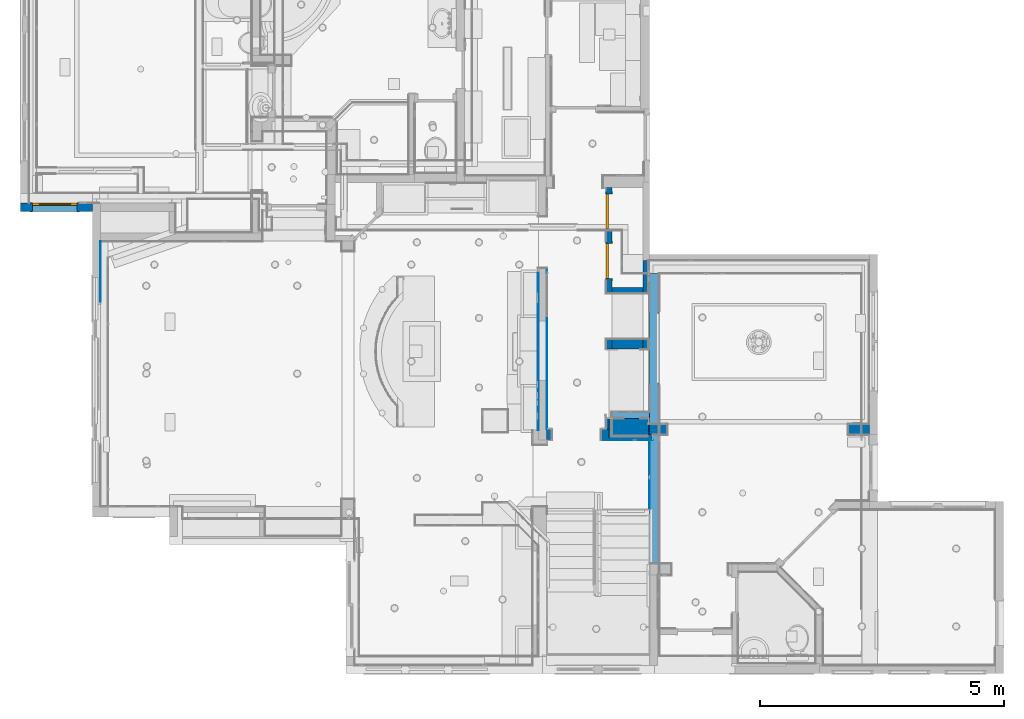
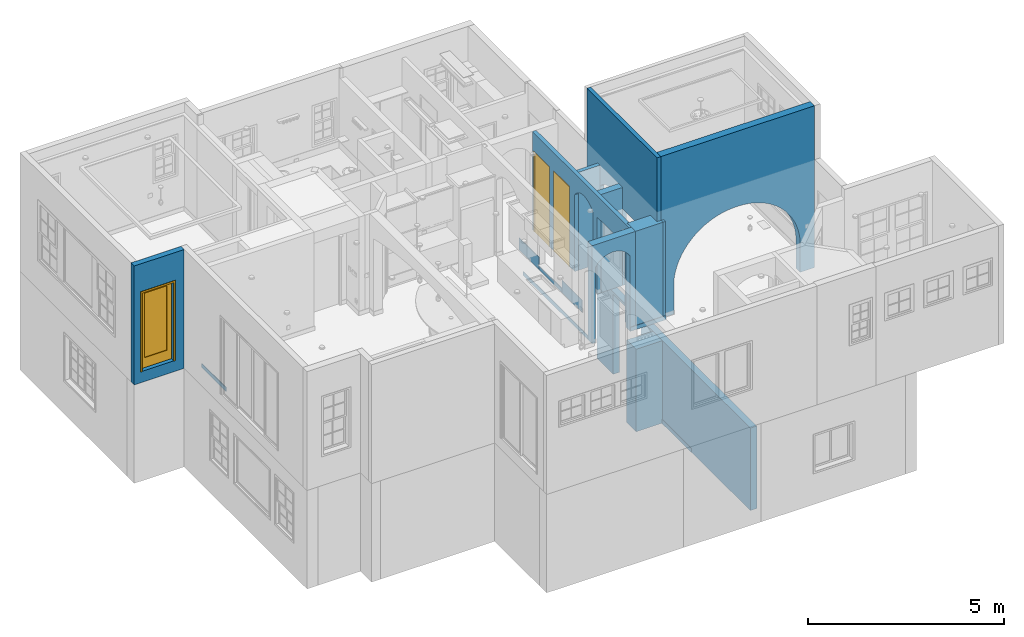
# One storey, part 7 of 81: 18 walls, 3 doors, 11 openings.
"""IFC2X3 building model written with IfcOpenShell, lengths in feet."""

from ifc_helpers import new_model, entity, si_unit, converted_unit, derived_unit, direction, frame, frame_2d, origin, origin_2d_with_axis, place, context, subcontext, project, spatial, polyline, circle_curve, parameter, trimmed, segment, composite_curve, rectangle, outline, extrude, clip, bounded_halfspace, source, transform, mapped, material, material_list, layer, layer_set, layer_usage, type_object, type_shapes, element, fill, save


model = new_model("IFC2X3")

# Units and contexts
model_context = context("Model", 3, precision=0.0001, world=origin(), true_north=direction((6.12303176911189e-17, 1.0)))
body_context = subcontext(model_context, "Body", "Model", "MODEL_VIEW")
ifc_project = project(units=[converted_unit("LENGTHUNIT", "FOOT", entity("IfcRatioMeasure", 0.3048), si_unit("LENGTHUNIT", "METRE"), dimensions=[1, 0, 0, 0, 0, 0, 0]), converted_unit("AREAUNIT", "SQUARE FOOT", entity("IfcRatioMeasure", 0.09290304), si_unit("AREAUNIT", "SQUARE_METRE"), dimensions=[2, 0, 0, 0, 0, 0, 0]), converted_unit("VOLUMEUNIT", "CUBIC FOOT", entity("IfcRatioMeasure", 0.028316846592), si_unit("VOLUMEUNIT", "CUBIC_METRE"), dimensions=[3, 0, 0, 0, 0, 0, 0]), converted_unit("PLANEANGLEUNIT", "DEGREE", entity("IfcRatioMeasure", 0.0174532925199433), si_unit("PLANEANGLEUNIT", "RADIAN"), dimensions=[0, 0, 0, 0, 0, 0, 0]), si_unit("MASSUNIT", "GRAM", prefix="KILO"), derived_unit("MASSDENSITYUNIT", [(si_unit("MASSUNIT", "GRAM", prefix="KILO"), 1), (si_unit("LENGTHUNIT", "METRE"), -3)]), derived_unit("MOMENTOFINERTIAUNIT", [(si_unit("LENGTHUNIT", "METRE"), 4)]), si_unit("TIMEUNIT", "SECOND"), si_unit("FREQUENCYUNIT", "HERTZ"), si_unit("THERMODYNAMICTEMPERATUREUNIT", "DEGREE_CELSIUS"), derived_unit("THERMALTRANSMITTANCEUNIT", [(si_unit("MASSUNIT", "GRAM", prefix="KILO"), 1), (si_unit("THERMODYNAMICTEMPERATUREUNIT", "KELVIN"), -1), (si_unit("TIMEUNIT", "SECOND"), -3)]), derived_unit("VOLUMETRICFLOWRATEUNIT", [(si_unit("LENGTHUNIT", "METRE"), 3), (si_unit("TIMEUNIT", "SECOND"), -1)]), si_unit("ELECTRICCURRENTUNIT", "AMPERE"), si_unit("ELECTRICVOLTAGEUNIT", "VOLT"), si_unit("POWERUNIT", "WATT"), si_unit("FORCEUNIT", "NEWTON"), si_unit("ILLUMINANCEUNIT", "LUX"), si_unit("LUMINOUSFLUXUNIT", "LUMEN"), si_unit("LUMINOUSINTENSITYUNIT", "CANDELA"), derived_unit("USERDEFINED", [(si_unit("MASSUNIT", "GRAM", prefix="KILO"), -1), (si_unit("LENGTHUNIT", "METRE"), -2), (si_unit("TIMEUNIT", "SECOND"), 3), (si_unit("LUMINOUSFLUXUNIT", "LUMEN"), 1)]), derived_unit("LINEARVELOCITYUNIT", [(si_unit("LENGTHUNIT", "METRE"), 1), (si_unit("TIMEUNIT", "SECOND"), -1)]), si_unit("PRESSUREUNIT", "PASCAL"), derived_unit("USERDEFINED", [(si_unit("LENGTHUNIT", "METRE"), -2), (si_unit("MASSUNIT", "GRAM", prefix="KILO"), 1), (si_unit("TIMEUNIT", "SECOND"), -2)]), derived_unit("LINEARFORCEUNIT", [(si_unit("MASSUNIT", "GRAM", prefix="KILO"), 1), (si_unit("LENGTHUNIT", "METRE"), 1), (si_unit("TIMEUNIT", "SECOND"), -2), (si_unit("LENGTHUNIT", "METRE"), -1)]), derived_unit("PLANARFORCEUNIT", [(si_unit("MASSUNIT", "GRAM", prefix="KILO"), 1), (si_unit("LENGTHUNIT", "METRE"), 1), (si_unit("TIMEUNIT", "SECOND"), -2), (si_unit("LENGTHUNIT", "METRE"), -2)])], contexts=[model_context])

# Site, building, storey
site_placement = place(None, origin())
site = spatial("IfcSite", under=ifc_project, at=site_placement, Name="Default", CompositionType="ELEMENT")
building_placement = place(site_placement, origin())
building = spatial("IfcBuilding", under=site, at=building_placement, CompositionType="ELEMENT")
storey_placement = place(building_placement, origin())
storey = spatial("IfcBuildingStorey", under=building, at=storey_placement, Name="First floor", CompositionType="ELEMENT", Elevation=0.0)

# Wall, opening, door
ifc_material_1 = material(Name="Default New Material")
ifc_layer_1 = layer(ifc_material_1, 0.541666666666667)
ifc_layer_set_1 = layer_set([ifc_layer_1], Name="Basic Wall:Wall_6.5\"")
ifc_layer_usage_1 = layer_usage(ifc_layer_set_1, "AXIS2", "NEGATIVE", 0.270833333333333)
wall_type_1 = type_object("IfcWallType", Name="Basic Wall:Wall_6.5\"", PredefinedType="STANDARD", material=ifc_layer_set_1)
wall_1_placement = place(storey_placement, frame((-17.0416666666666, 31.3125, 9.54166666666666), z_axis=(0.0, 0.0, 1.0), x_axis=(-1.0, 0.0, 0.0)))
wall_1 = element("IfcWallStandardCase", 1, at=wall_1_placement, inside=storey, type_object=wall_type_1, material=ifc_layer_usage_1, Name="Basic Wall:Wall_6.5\"", ObjectType="Basic Wall:Wall_6.5\"", context=body_context, shape_type="SweptSolid", body=[
    extrude(rectangle(XDim=4.81250000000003, YDim=0.541666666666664, at=frame_2d((2.40625000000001, -8.88178419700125e-16), x_axis=(-1.0, 0.0))), origin(), (0.0, 0.0, 1.0), 12.125),
])
opening_1_placement = place(wall_1_placement, frame((4.02083333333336, 0.270833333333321, 1.125)))
opening_1 = element("IfcOpeningElement", 2, at=opening_1_placement, cuts=wall_1, Name="Door_2:3'-0\" X 8'-0\":1", ObjectType="Opening", context=body_context, shape_type="SweptSolid", body=[
    extrude(rectangle(XDim=8.00000000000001, YDim=3.0, at=frame_2d((4.0, 1.5), x_axis=(1.0, 0.0))), frame((0.0, 0.0, 0.0), z_axis=(0.0, -1.0, 0.0), x_axis=(0.0, 0.0, 1.0)), (0.0, 0.0, 1.0), 0.541666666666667),
])
ifc_material_2 = material(Name="Glass")
ifc_material_list_1 = material_list([ifc_material_2, ifc_material_1])
ifc_material_list_2 = material_list([ifc_material_1, ifc_material_1, ifc_material_2])
door_style_1 = type_object("IfcDoorStyle", Name="Door_2:3'-0\" X 8'-0\"", ConstructionType="NOTDEFINED", OperationType="SINGLE_SWING_LEFT", ParameterTakesPrecedence=False, Sizeable=False, material=ifc_material_list_2)
shared_shape_1 = source(origin(), body_context, "Body", "SweptSolid", [
    extrude(rectangle(XDim=2.14583333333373, YDim=0.0416666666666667, at=frame_2d((0.0, 1.38777878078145e-17), x_axis=(1.0, 0.0))), frame((1.51041666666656, 0.437499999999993, 1.0), z_axis=(0.0, 0.0, 1.0), x_axis=(-1.0, 0.0, 0.0)), (0.0, 0.0, 1.0), 6.58333333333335),
    extrude(outline(polyline([(-4.04166666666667, -1.49999999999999), (-4.04166666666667, -1.66666666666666), (4.12500000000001, -1.66666666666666), (4.12500000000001, 1.66666666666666), (-4.04166666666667, 1.66666666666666), (-4.04166666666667, 1.49999999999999), (3.95833333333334, 1.49999999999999), (3.95833333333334, -1.49999999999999), (-4.04166666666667, -1.49999999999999)])), frame((1.50000000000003, -0.0208333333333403, 4.04166666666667), z_axis=(0.0, 1.0, 0.0), x_axis=(0.0, 0.0, 1.0)), (0.0, 0.0, -1.0), 0.0416666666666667),
    extrude(outline(polyline([(-4.04166666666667, -1.49999999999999), (-4.04166666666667, -1.66666666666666), (4.12500000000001, -1.66666666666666), (4.12500000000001, 1.66666666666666), (-4.04166666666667, 1.66666666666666), (-4.04166666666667, 1.49999999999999), (3.95833333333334, 1.49999999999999), (3.95833333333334, -1.49999999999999), (-4.04166666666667, -1.49999999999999)])), frame((1.50000000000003, 0.562499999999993, 4.04166666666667), z_axis=(0.0, 1.0, 0.0), x_axis=(0.0, 0.0, 1.0)), (0.0, 0.0, -1.0), 0.0416666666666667),
    extrude(outline(polyline([(-1.49999999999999, -4.0), (1.49999999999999, -4.0), (1.49999999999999, 4.0), (-1.49999999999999, 4.0), (-1.49999999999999, -4.0)]), holes=[polyline([(-1.08333333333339, 3.0), (1.06250000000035, 3.0), (1.06250000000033, -3.58333333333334), (-1.08333333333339, -3.58333333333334), (-1.08333333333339, 3.0)])]), frame((1.50000000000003, 0.520833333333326, 4.0), z_axis=(0.0, -1.0, 0.0), x_axis=(-1.0, 0.0, 0.0)), (0.0, 0.0, 1.0), 0.166666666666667),
])
type_shapes(door_style_1, [shared_shape_1])
door_1_placement = place(opening_1_placement, frame((0.0, -0.0208333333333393, 0.0), z_axis=(0.0, 0.0, 1.0), x_axis=(-1.0, 0.0, 0.0)))
door_1 = element("IfcDoor", 3, at=door_1_placement, inside=storey, type_object=door_style_1, material=ifc_material_list_1, Name="Door_2:3'-0\" X 8'-0\"", ObjectType="Door_2:3'-0\" X 8'-0\"", OverallHeight=8.00000000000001, OverallWidth=3.0, context=body_context, shape_type="MappedRepresentation", body=[
    mapped(shared_shape_1, transform((0.0, 0.0, 0.0), scale=1.0)),
])
fill(opening_1, door_1)

# Wall
ifc_layer_2 = layer(ifc_material_1, 0.666666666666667)
ifc_layer_set_2 = layer_set([ifc_layer_2], Name="Basic Wall:Wall_8\"")
ifc_layer_usage_2 = layer_usage(ifc_layer_set_2, "AXIS2", "NEGATIVE", 0.333333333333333)
wall_type_2 = type_object("IfcWallType", Name="Basic Wall:Wall_8\"", PredefinedType="STANDARD", material=ifc_layer_set_2)
wall_2_placement = place(storey_placement, frame((17.8333333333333, 22.1246548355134, 10.6666666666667)))
element("IfcWallStandardCase", 4, at=wall_2_placement, inside=storey, type_object=wall_type_2, material=ifc_layer_usage_2, Name="Basic Wall:Wall_8\"", ObjectType="Basic Wall:Wall_8\"", context=body_context, shape_type="SweptSolid", body=[
    extrude(rectangle(XDim=2.08333333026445, YDim=0.666666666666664, at=frame_2d((1.04166666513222, 0.0), x_axis=(-1.0, 0.0))), origin(), (0.0, 0.0, 1.0), 10.0),
])

# Wall, opening
ifc_layer_3 = layer(ifc_material_1, 0.708333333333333)
ifc_layer_set_3 = layer_set([ifc_layer_3], Name="Basic Wall:Wall_8.5\"")
ifc_layer_usage_3 = layer_usage(ifc_layer_set_3, "AXIS2", "POSITIVE", -0.354166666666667)
wall_type_3 = type_object("IfcWallType", Name="Basic Wall:Wall_8.5\"", PredefinedType="STANDARD", material=ifc_layer_set_3)
wall_3_placement = place(storey_placement, frame((17.6458333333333, 16.0621548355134, 10.6666666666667), z_axis=(0.0, 0.0, 1.0), x_axis=(-1.0, 0.0, 0.0)))
wall_3 = element("IfcWallStandardCase", 5, at=wall_3_placement, inside=storey, type_object=wall_type_3, material=ifc_layer_usage_3, Name="Basic Wall:Wall_8.5\"", ObjectType="Basic Wall:Wall_8.5\"", context=body_context, shape_type="SweptSolid", body=[
    extrude(rectangle(XDim=4.18749999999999, YDim=0.708333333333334, at=frame_2d((2.09374999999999, -1.19348975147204e-15), x_axis=(-1.0, 0.0))), origin(), (0.0, 0.0, 1.0), 10.0),
])
opening_2_placement = place(wall_3_placement, origin())
element("IfcOpeningElement", 6, at=opening_2_placement, cuts=wall_3, Name="Basic Wall:Wall_8.5\"", ObjectType="Opening", context=body_context, shape_type="SweptSolid", body=[
    extrude(outline(composite_curve([segment(polyline([(-3.83333333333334, -1.66666666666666), (3.83333333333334, -1.66666666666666)]), True, "CONTINUOUS"), segment(polyline([(3.83333333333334, -1.66666666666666), (3.83333333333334, 1.66666666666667)]), True, "CONTINUOUS"), segment(polyline([(3.83333333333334, 1.66666666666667), (-3.83333333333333, 1.66666666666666)]), True, "CONTINUOUS"), segment(trimmed(circle_curve(frame_2d((-2.94444444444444, 0.0), x_axis=(1.0, 0.0)), 1.88888888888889), [parameter(118.072486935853)], [parameter(241.927513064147)], True, "PARAMETER"), True, "CONTINUOUS")], self_intersect=False)), frame((2.18749999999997, -0.479166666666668, 3.83333333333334), z_axis=(0.0, 1.0, 0.0), x_axis=(0.0, 0.0, -1.0)), (0.0, 0.0, 1.0), 0.833333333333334),
])

ifc_layer_usage_4 = layer_usage(ifc_layer_set_3, "AXIS2", "NEGATIVE", 0.354166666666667)
wall_4_placement = place(storey_placement, frame((20.2916666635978, 16.3958336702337, 10.6666666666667)))
wall_4 = element("IfcWallStandardCase", 7, at=wall_4_placement, inside=storey, type_object=wall_type_3, material=ifc_layer_usage_4, Name="Basic Wall:Wall_8.5\"", ObjectType="Basic Wall:Wall_8.5\"", context=body_context, shape_type="SweptSolid", body=[
    extrude(rectangle(XDim=14.8333333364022, YDim=0.708333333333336, at=frame_2d((7.41666666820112, 0.0), x_axis=(-1.0, 0.0))), origin(), (0.0, 0.0, 1.0), 16.5),
])
opening_3_placement = place(wall_4_placement, origin())
element("IfcOpeningElement", 8, at=opening_3_placement, cuts=wall_4, Name="Basic Wall:Wall_8.5\"", ObjectType="Opening", context=body_context, shape_type="SweptSolid", body=[
    extrude(outline(composite_curve([segment(polyline([(-0.233333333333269, -6.08333333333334), (3.09999999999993, -6.08333333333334)]), True, "CONTINUOUS"), segment(polyline([(3.09999999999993, -6.08333333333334), (3.09999999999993, 6.08333333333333)]), True, "CONTINUOUS"), segment(polyline([(3.09999999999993, 6.08333333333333), (-0.233333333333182, 6.08333333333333)]), True, "CONTINUOUS"), segment(trimmed(circle_curve(frame_2d((0.265763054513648, 0.104127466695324), x_axis=(0.0, 1.0)), 6.0), [parameter(4.77153292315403)], [parameter(90.9943939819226)], True, "PARAMETER"), True, "CONTINUOUS"), segment(trimmed(circle_curve(frame_2d((0.265763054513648, -0.104127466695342), x_axis=(0.0, -1.0)), 6.0), [parameter(269.005606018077)], [parameter(355.228467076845)], True, "PARAMETER"), True, "CONTINUOUS")], self_intersect=False)), frame((7.33383460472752, -0.354166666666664, 3.09999999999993), z_axis=(0.0, 1.0, 0.0), x_axis=(0.0, 0.0, -1.0)), (0.0, 0.0, 1.0), 0.708333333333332),
])

ifc_layer_4 = layer(ifc_material_1, 0.625)
ifc_layer_set_4 = layer_set([ifc_layer_4], Name="Basic Wall:Wall_7.5\"")
ifc_layer_usage_5 = layer_usage(ifc_layer_set_4, "AXIS2", "NEGATIVE", 0.3125)
wall_type_4 = type_object("IfcWallType", Name="Basic Wall:Wall_7.5\"", PredefinedType="STANDARD", material=ifc_layer_set_4)
wall_5_placement = place(storey_placement, frame((20.6875, 1.24999999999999, 0.0), z_axis=(0.0, 0.0, 1.0), x_axis=(0.0, 1.0, 0.0)))
wall_5 = element("IfcWallStandardCase", 9, at=wall_5_placement, inside=storey, type_object=wall_type_4, material=ifc_layer_usage_5, Name="Basic Wall:Wall_7.5\"", ObjectType="Basic Wall:Wall_7.5\"", context=body_context, shape_type="SweptSolid", body=[
    extrude(rectangle(XDim=25.625, YDim=0.625, at=frame_2d((12.8125, -7.21644966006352e-16), x_axis=(-1.0, 0.0))), origin(), (0.0, 0.0, 1.0), 8.41666666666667),
])
opening_4_placement = place(wall_5_placement, frame((22.9166666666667, 0.312499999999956, 0.0)))
element("IfcOpeningElement", 10, at=opening_4_placement, cuts=wall_5, Name="Door_4:4'-8\" X 8'-2\":1", ObjectType="Opening", context=body_context, shape_type="SweptSolid", body=[
    extrude(rectangle(XDim=4.66666666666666, YDim=8.16666666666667, at=frame_2d((4.08333333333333, 2.33333333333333), x_axis=(0.0, 1.0))), frame((0.0, 0.0, 0.0), z_axis=(0.0, -1.0, 0.0), x_axis=(0.0, 0.0, 1.0)), (0.0, 0.0, 1.0), 0.625),
])

# Wall, openings, doors
ifc_layer_5 = layer(ifc_material_1, 0.375)
ifc_layer_set_5 = layer_set([ifc_layer_5], Name="Basic Wall:Wall_4.5\"")
ifc_layer_usage_6 = layer_usage(ifc_layer_set_5, "AXIS2", "POSITIVE", -0.1875)
wall_type_5 = type_object("IfcWallType", Name="Basic Wall:Wall_4.5\"", PredefinedType="STANDARD", material=ifc_layer_set_5)
wall_6_placement = place(storey_placement, frame((17.6458333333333, 16.4163215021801, 10.6666666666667), z_axis=(0.0, 0.0, 1.0), x_axis=(0.0, 1.0, 0.0)))
wall_6 = element("IfcWallStandardCase", 11, at=wall_6_placement, inside=storey, type_object=wall_type_5, material=ifc_layer_usage_6, Name="Basic Wall:Wall_4.5\"", ObjectType="Basic Wall:Wall_4.5\"", context=body_context, shape_type="SweptSolid", body=[
    extrude(outline(polyline([(0.708333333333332, -0.187499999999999), (5.37499999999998, -0.187499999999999), (6.04166666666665, -0.187500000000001), (9.12499999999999, -0.1875), (9.49999999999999, -0.1875), (16.2083333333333, -0.1875), (16.2083333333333, 0.1875), (0.0, 0.1875), (0.0, 0.0), (0.708333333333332, 0.0), (0.708333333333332, -0.187499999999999)])), origin(), (0.0, 0.0, 1.0), 10.0),
])
opening_5_placement = place(wall_6_placement, origin())
element("IfcOpeningElement", 12, at=opening_5_placement, cuts=wall_6, Name="Basic Wall:Wall_4.5\"", ObjectType="Opening", context=body_context, shape_type="SweptSolid", body=[
    extrude(outline(composite_curve([segment(polyline([(-3.91666666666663, -1.54166666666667), (3.91666666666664, -1.54166666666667)]), True, "CONTINUOUS"), segment(trimmed(circle_curve(frame_2d((2.90729166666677, 0.0), x_axis=(0.0, -1.0)), 1.84270833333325), [parameter(33.2139611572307)], [parameter(146.78603884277)], True, "PARAMETER"), True, "CONTINUOUS"), segment(polyline([(3.91666666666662, 1.54166666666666), (-3.91666666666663, 1.54166666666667)]), True, "CONTINUOUS"), segment(polyline([(-3.91666666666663, 1.54166666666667), (-3.91666666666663, -1.54166666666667)]), True, "CONTINUOUS")], self_intersect=False)), frame((7.58333333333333, -0.187500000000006, 3.91666666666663), z_axis=(0.0, 1.0, 0.0), x_axis=(0.0, 0.0, 1.0)), (0.0, 0.0, 1.0), 0.375),
])
opening_6_placement = place(wall_6_placement, origin())
element("IfcOpeningElement", 13, at=opening_6_placement, cuts=wall_6, Name="Basic Wall:Wall_4.5\"", ObjectType="Opening", context=body_context, shape_type="SweptSolid", body=[
    extrude(rectangle(XDim=7.83333333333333, YDim=4.66666666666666, at=frame_2d((8.88178419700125e-16, 0.0), x_axis=(1.0, 0.0))), frame((3.04166666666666, -0.645833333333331, 3.91666666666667), z_axis=(0.0, 1.0, 0.0), x_axis=(0.0, 0.0, -1.0)), (0.0, 0.0, 1.0), 0.833333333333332),
])
opening_7_placement = place(wall_6_placement, frame((13.4583333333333, -0.187500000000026, 0.0)))
opening_7 = element("IfcOpeningElement", 14, at=opening_7_placement, cuts=wall_6, Name="Door_1:2'-4\" X 8'-0\":1", ObjectType="Opening", context=body_context, shape_type="SweptSolid", body=[
    extrude(rectangle(XDim=2.33333333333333, YDim=8.0, at=frame_2d((4.0, 1.16666666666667), x_axis=(0.0, -1.0))), frame((0.0, 0.0, 0.0), z_axis=(0.0, 1.0, 0.0), x_axis=(0.0, 0.0, 1.0)), (0.0, 0.0, 1.0), 0.375),
])
opening_8_placement = place(wall_6_placement, frame((10.125, -0.187500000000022, 0.0)))
opening_8 = element("IfcOpeningElement", 15, at=opening_8_placement, cuts=wall_6, Name="Door_1:2'-4\" X 8'-0\":1", ObjectType="Opening", context=body_context, shape_type="SweptSolid", body=[
    extrude(rectangle(XDim=2.33333333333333, YDim=8.0, at=frame_2d((4.0, 1.16666666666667), x_axis=(0.0, -1.0))), frame((0.0, 0.0, 0.0), z_axis=(0.0, 1.0, 0.0), x_axis=(0.0, 0.0, 1.0)), (0.0, 0.0, 1.0), 0.375),
])
ifc_material_list_3 = material_list([ifc_material_1, ifc_material_1])
door_style_2 = type_object("IfcDoorStyle", Name="Door_1:2'-4\" X 8'-0\"", ConstructionType="NOTDEFINED", OperationType="SINGLE_SWING_LEFT", ParameterTakesPrecedence=False, Sizeable=False, material=ifc_material_list_3)
shared_shape_2 = source(origin(), body_context, "Body", "SweptSolid", [
    extrude(outline(polyline([(-1.33333333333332, -4.125), (1.3333333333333, -4.125), (1.3333333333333, 4.04166666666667), (1.16666666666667, 4.04166666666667), (1.16666666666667, -3.95833333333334), (-1.16666666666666, -3.95833333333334), (-1.16666666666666, 4.04166666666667), (-1.33333333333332, 4.04166666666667), (-1.33333333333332, -4.125)])), frame((1.16666666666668, 0.416666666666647, 4.04166666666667), z_axis=(0.0, -1.0, 0.0), x_axis=(-1.0, 0.0, 0.0)), (0.0, 0.0, 1.0), 0.0416666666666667),
    extrude(outline(polyline([(-4.125, -1.33333333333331), (4.04166666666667, -1.33333333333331), (4.04166666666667, -1.16666666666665), (-3.95833333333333, -1.16666666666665), (-3.95833333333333, 1.16666666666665), (4.04166666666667, 1.16666666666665), (4.04166666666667, 1.33333333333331), (-4.125, 1.33333333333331), (-4.125, -1.33333333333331)])), frame((1.16666666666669, 0.0, 4.04166666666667), z_axis=(0.0, -1.0, 0.0), x_axis=(0.0, 0.0, -1.0)), (0.0, 0.0, 1.0), 0.0416666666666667),
    extrude(rectangle(XDim=2.33333333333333, YDim=0.166666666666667, at=origin_2d_with_axis()), frame((1.16666666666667, 0.291666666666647, 0.0)), (0.0, 0.0, 1.0), 8.0),
])
type_shapes(door_style_2, [shared_shape_2])
door_2_placement = place(opening_7_placement, origin())
door_2 = element("IfcDoor", 16, at=door_2_placement, inside=storey, type_object=door_style_2, material=ifc_material_1, Name="Door_1:2'-4\" X 8'-0\"", ObjectType="Door_1:2'-4\" X 8'-0\"", OverallHeight=8.0, OverallWidth=2.33333333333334, context=body_context, shape_type="MappedRepresentation", body=[
    mapped(shared_shape_2, transform((0.0, 0.0, 0.0), scale=1.0)),
])
fill(opening_7, door_2)
door_3_placement = place(opening_8_placement, origin())
door_3 = element("IfcDoor", 17, at=door_3_placement, inside=storey, type_object=door_style_2, material=ifc_material_1, Name="Door_1:2'-4\" X 8'-0\"", ObjectType="Door_1:2'-4\" X 8'-0\"", OverallHeight=8.0, OverallWidth=2.33333333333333, context=body_context, shape_type="MappedRepresentation", body=[
    mapped(shared_shape_2, transform((0.0, 0.0, 0.0), scale=1.0)),
])
fill(opening_8, door_3)

# Wall, openings
ifc_layer_usage_7 = layer_usage(ifc_layer_set_5, "AXIS2", "POSITIVE", -0.1875)
wall_7_placement = place(storey_placement, frame((20.1041666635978, 16.041667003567, 10.6666666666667), z_axis=(0.0, 0.0, 1.0), x_axis=(0.0, 1.0, 0.0)))
wall_7 = element("IfcWallStandardCase", 18, at=wall_7_placement, inside=storey, type_object=wall_type_5, material=ifc_layer_usage_7, Name="Basic Wall:Wall_4.5\"", ObjectType="Basic Wall:Wall_4.5\"", context=body_context, shape_type="SweptSolid", body=[
    extrude(rectangle(XDim=11.708332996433, YDim=0.375, at=frame_2d((5.8541664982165, 0.0), x_axis=(1.0, 0.0))), origin(), (0.0, 0.0, 1.0), 16.5),
])
opening_9_placement = place(wall_7_placement, origin())
element("IfcOpeningElement", 19, at=opening_9_placement, cuts=wall_7, Name="Basic Wall:Wall_4.5\"", ObjectType="Opening", context=body_context, shape_type="SweptSolid", body=[
    extrude(rectangle(XDim=7.83333333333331, YDim=4.66666666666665, at=frame_2d((-1.77635683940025e-15, -8.88178419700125e-16), x_axis=(0.0, 1.0))), frame((3.41632116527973, -0.187499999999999, 3.91666666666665), z_axis=(0.0, 1.0, 0.0), x_axis=(1.0, 0.0, 0.0)), (0.0, 0.0, 1.0), 0.375),
])
opening_10_placement = place(wall_7_placement, origin())
element("IfcOpeningElement", 20, at=opening_10_placement, cuts=wall_7, Name="Basic Wall:Wall_4.5\"", ObjectType="Opening", context=body_context, shape_type="SweptSolid", body=[
    extrude(outline(composite_curve([segment(trimmed(circle_curve(frame_2d((0.0, 2.90729166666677), x_axis=(1.0, 0.0)), 1.84270833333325), [parameter(33.2139611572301)], [parameter(146.78603884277)], True, "PARAMETER"), True, "CONTINUOUS"), segment(polyline([(-1.54166666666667, 3.91666666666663), (-1.54166666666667, -3.91666666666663)]), True, "CONTINUOUS"), segment(polyline([(-1.54166666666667, -3.91666666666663), (1.54166666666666, -3.91666666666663)]), True, "CONTINUOUS"), segment(polyline([(1.54166666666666, -3.91666666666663), (1.54166666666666, 3.91666666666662)]), True, "CONTINUOUS")], self_intersect=False)), frame((7.95798783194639, -0.187499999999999, 3.91666666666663), z_axis=(0.0, 1.0, 0.0), x_axis=(-1.0, 0.0, 0.0)), (0.0, 0.0, 1.0), 0.375),
])

# Wall
ifc_layer_usage_8 = layer_usage(ifc_layer_set_5, "AXIS2", "NEGATIVE", 0.1875)
wall_8_placement = place(storey_placement, frame((17.8333333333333, 25.7288215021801, 10.6666666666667)))
element("IfcWallStandardCase", 21, at=wall_8_placement, inside=storey, type_object=wall_type_5, material=ifc_layer_usage_8, Name="Basic Wall:Wall_4.5\"", ObjectType="Basic Wall:Wall_4.5\"", context=body_context, shape_type="SweptSolid", body=[
    extrude(rectangle(XDim=2.08333333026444, YDim=0.375, at=frame_2d((1.04166666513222, 0.0), x_axis=(-1.0, 0.0))), origin(), (0.0, 0.0, 1.0), 10.0),
])

# Wall, opening
ifc_layer_usage_9 = layer_usage(ifc_layer_set_5, "AXIS2", "POSITIVE", -0.1875)
wall_9_placement = place(storey_placement, frame((20.5416666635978, 15.8954881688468, 10.6666666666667), z_axis=(0.0, 0.0, 1.0), x_axis=(-1.0, 0.0, 0.0)))
wall_9 = element("IfcWallStandardCase", 22, at=wall_9_placement, inside=storey, type_object=wall_type_5, material=ifc_layer_usage_9, Name="Basic Wall:Wall_4.5\"", ObjectType="Basic Wall:Wall_4.5\"", context=body_context, shape_type="Clipping", body=[
    clip(extrude(rectangle(XDim=0.250000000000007, YDim=0.374999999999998, at=frame_2d((0.125000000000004, 1.2490009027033e-15), x_axis=(-1.0, 0.0))), origin(), (0.0, 0.0, 1.0), 10.0), bounded_halfspace(frame((0.0, -0.146178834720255, 0.0), z_axis=(0.0, 1.0, 0.0), x_axis=(-1.0, 0.0, 0.0)), True, frame((0.0, -0.146178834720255, 0.0), z_axis=(0.0, 1.0, 0.0), x_axis=(-1.0, 0.0, 0.0)), polyline([(0.0, 0.0), (0.0, 0.416666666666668), (0.0, 10.0), (-0.250000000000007, 10.0), (-0.250000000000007, 0.0), (0.0, 0.0)]))),
])
opening_11_placement = place(wall_9_placement, origin())
element("IfcOpeningElement", 23, at=opening_11_placement, cuts=wall_9, Name="Basic Wall:Wall_4.5\"", ObjectType="Opening", context=body_context, shape_type="SweptSolid", body=[
    extrude(outline(composite_curve([segment(trimmed(circle_curve(frame_2d((0.104127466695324, -0.265763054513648), x_axis=(1.0, 0.0)), 6.0), [parameter(4.77153292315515)], [parameter(90.9943939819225)], True, "PARAMETER"), True, "CONTINUOUS"), segment(trimmed(circle_curve(frame_2d((-0.104127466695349, -0.265763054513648), x_axis=(-1.0, 0.0)), 6.0), [parameter(269.005606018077)], [parameter(355.228467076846)], True, "PARAMETER"), True, "CONTINUOUS"), segment(polyline([(-6.08333333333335, 0.233333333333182), (-6.08333333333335, -3.09999999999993)]), True, "CONTINUOUS"), segment(polyline([(-6.08333333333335, -3.09999999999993), (6.08333333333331, -3.09999999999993)]), True, "CONTINUOUS"), segment(polyline([(6.08333333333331, -3.09999999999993), (6.08333333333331, 0.233333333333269)]), True, "CONTINUOUS")], self_intersect=False)), frame((-7.08383460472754, -0.854512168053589, 3.09999999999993), z_axis=(0.0, 1.0, 0.0), x_axis=(-1.0, 0.0, 0.0)), (0.0, 0.0, 1.0), 0.708333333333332),
])

# Walls
ifc_layer_6 = layer(ifc_material_1, 1.41666666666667)
ifc_layer_set_6 = layer_set([ifc_layer_6], Name="Basic Wall:Wall_17\"")
ifc_layer_usage_10 = layer_usage(ifc_layer_set_6, "AXIS2", "POSITIVE", -0.708333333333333)
wall_type_6 = type_object("IfcWallType", Name="Basic Wall:Wall_17\"", PredefinedType="STANDARD", material=ifc_layer_set_6)
wall_10_placement = place(storey_placement, frame((20.2916666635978, 16.4163215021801, 10.6666666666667), z_axis=(0.0, 0.0, 1.0), x_axis=(-1.0, 0.0, 0.0)))
element("IfcWallStandardCase", 24, at=wall_10_placement, inside=storey, type_object=wall_type_6, material=ifc_layer_usage_10, Name="Basic Wall:Wall_17\"", ObjectType="Basic Wall:Wall_17\"", context=body_context, shape_type="SweptSolid", body=[
    extrude(rectangle(XDim=2.64583333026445, YDim=1.41666666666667, at=frame_2d((1.32291666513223, 9.43689570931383e-16), x_axis=(-1.0, 0.0))), origin(), (0.0, 0.0, 1.0), 10.0),
])
ifc_layer_7 = layer(ifc_material_1, 1.58333333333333)
ifc_layer_set_7 = layer_set([ifc_layer_7], Name="Basic Wall:Wall_1'7\"")
ifc_layer_usage_11 = layer_usage(ifc_layer_set_7, "AXIS2", "NEGATIVE", 0.791666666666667)
wall_type_7 = type_object("IfcWallType", Name="Basic Wall:Wall_1'7\"", PredefinedType="STANDARD", material=ifc_layer_set_7)
wall_11_placement = place(storey_placement, frame((17.8541666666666, 16.75, 0.0)))
element("IfcWallStandardCase", 25, at=wall_11_placement, inside=storey, type_object=wall_type_7, material=ifc_layer_usage_11, Name="Basic Wall:Wall_1'7\"", ObjectType="Basic Wall:Wall_1'7\"", context=body_context, shape_type="SweptSolid", body=[
    extrude(rectangle(XDim=2.5208333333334, YDim=1.58333333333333, at=frame_2d((1.2604166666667, 9.43689570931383e-16), x_axis=(-1.0, 0.0))), origin(), (0.0, 0.0, 1.0), 8.41666666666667),
])
ifc_layer_8 = layer(ifc_material_1, 0.0416666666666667)
ifc_layer_set_8 = layer_set([ifc_layer_8], Name="Basic Wall:Wall Border_T1")
ifc_layer_usage_12 = layer_usage(ifc_layer_set_8, "AXIS2", "POSITIVE", -0.0208333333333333)
wall_type_8 = type_object("IfcWallType", Name="Basic Wall:Wall Border_T1", PredefinedType="STANDARD", material=ifc_layer_set_8)
wall_12_placement = place(storey_placement, frame((20.3541666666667, 15.9583333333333, 0.0), z_axis=(0.0, 0.0, 1.0), x_axis=(0.0, -1.0, 0.0)))
element("IfcWallStandardCase", 26, at=wall_12_placement, inside=storey, type_object=wall_type_8, material=ifc_layer_usage_12, Name="Basic Wall:Wall Border_T1", ObjectType="Basic Wall:Wall Border_T1", context=body_context, shape_type="SweptSolid", body=[
    extrude(rectangle(XDim=4.91666666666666, YDim=0.0416666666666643, at=frame_2d((2.45833333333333, -2.94902990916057e-17), x_axis=(-1.0, 0.0))), origin(), (0.0, 0.0, 1.0), 0.416666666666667),
])
ifc_layer_usage_13 = layer_usage(ifc_layer_set_8, "AXIS2", "NEGATIVE", 0.0208333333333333)
wall_13_placement = place(storey_placement, frame((13.4791666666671, 27.2079881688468, 10.6666666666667), z_axis=(0.0, 0.0, 1.0), x_axis=(0.0, -1.0, 0.0)))
element("IfcWallStandardCase", 27, at=wall_13_placement, inside=storey, type_object=wall_type_8, material=ifc_layer_usage_13, Name="Basic Wall:Wall Border_T1", ObjectType="Basic Wall:Wall Border_T1", context=body_context, shape_type="SweptSolid", body=[
    extrude(rectangle(XDim=10.7916666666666, YDim=0.0416666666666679, at=frame_2d((5.39583333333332, -1.75207071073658e-16), x_axis=(-1.0, 0.0))), origin(), (0.0, 0.0, 1.0), 0.416666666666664),
])
ifc_layer_usage_14 = layer_usage(ifc_layer_set_8, "AXIS2", "POSITIVE", -0.0208333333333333)
wall_14_placement = place(storey_placement, frame((17.125, 15.6871548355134, 10.6666666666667)))
element("IfcWallStandardCase", 28, at=wall_14_placement, inside=storey, type_object=wall_type_8, material=ifc_layer_usage_14, Name="Basic Wall:Wall Border_T1", ObjectType="Basic Wall:Wall Border_T1", context=body_context, shape_type="SweptSolid", body=[
    extrude(rectangle(XDim=3.45833333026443, YDim=0.0416666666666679, at=frame_2d((1.72916666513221, 6.41847686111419e-17), x_axis=(-1.0, 0.0))), origin(), (0.0, 0.0, 1.0), 0.416666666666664),
])
ifc_layer_usage_15 = layer_usage(ifc_layer_set_8, "AXIS2", "POSITIVE", -0.0208333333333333)
wall_15_placement = place(storey_placement, frame((-16.4791666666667, 24.9583333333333, 10.6666666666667), z_axis=(0.0, 0.0, 1.0), x_axis=(0.0, 1.0, 0.0)))
element("IfcWallStandardCase", 29, at=wall_15_placement, inside=storey, type_object=wall_type_8, material=ifc_layer_usage_15, Name="Basic Wall:Wall Border_T1", ObjectType="Basic Wall:Wall Border_T1", context=body_context, shape_type="SweptSolid", body=[
    extrude(rectangle(XDim=4.08333333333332, YDim=0.0416666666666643, at=frame_2d((2.04166666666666, -2.20309881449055e-16), x_axis=(-1.0, 0.0))), origin(), (0.0, 0.0, 1.0), 0.416666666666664),
])
ifc_layer_usage_16 = layer_usage(ifc_layer_set_8, "AXIS2", "NEGATIVE", 0.0208333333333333)
wall_16_placement = place(storey_placement, frame((12.8958333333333, 26.9163215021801, 13.6666666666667), z_axis=(0.0, 0.0, 1.0), x_axis=(0.0, -1.0, 0.0)))
element("IfcWallStandardCase", 30, at=wall_16_placement, inside=storey, type_object=wall_type_8, material=ifc_layer_usage_16, Name="Basic Wall:Wall Border_T1", ObjectType="Basic Wall:Wall Border_T1", context=body_context, shape_type="Clipping", body=[
    clip(extrude(rectangle(XDim=3.33333333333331, YDim=0.0416666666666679, at=frame_2d((1.66666666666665, 0.0), x_axis=(-1.0, 0.0))), origin(), (0.0, 0.0, 1.0), 1.25), bounded_halfspace(frame((3.24999999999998, 0.0208333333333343, 0.499999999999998), z_axis=(-1.0, 0.0, 0.0), x_axis=(0.0, 0.0, -1.0)), True, frame((3.24999999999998, 0.0208333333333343, 0.499999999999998), z_axis=(-1.0, 0.0, 0.0), x_axis=(0.0, 0.0, -1.0)), polyline([(0.0, 0.0), (0.0833333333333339, 0.0), (0.0833333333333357, 0.0416666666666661), (0.0, 0.0416666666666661), (0.0, 0.0)]))),
])
ifc_layer_usage_17 = layer_usage(ifc_layer_set_8, "AXIS2", "NEGATIVE", 0.0208333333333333)
wall_17_placement = place(storey_placement, frame((12.8958333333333, 23.5829881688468, 13.6666666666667), z_axis=(0.0, 0.0, 1.0), x_axis=(0.0, -1.0, 0.0)))
element("IfcWallStandardCase", 31, at=wall_17_placement, inside=storey, type_object=wall_type_8, material=ifc_layer_usage_17, Name="Basic Wall:Wall Border_T1", ObjectType="Basic Wall:Wall Border_T1", context=body_context, shape_type="SweptSolid", body=[
    extrude(rectangle(XDim=3.83333333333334, YDim=0.0416666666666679, at=frame_2d((1.91666666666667, 0.0), x_axis=(-1.0, 0.0))), origin(), (0.0, 0.0, 1.0), 0.416666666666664),
])
ifc_layer_usage_18 = layer_usage(ifc_layer_set_8, "AXIS2", "NEGATIVE", 0.0208333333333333)
wall_18_placement = place(storey_placement, frame((12.8958333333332, 19.7496548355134, 13.6666666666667), z_axis=(0.0, 0.0, 1.0), x_axis=(0.0, -1.0, 0.0)))
element("IfcWallStandardCase", 32, at=wall_18_placement, inside=storey, type_object=wall_type_8, material=ifc_layer_usage_18, Name="Basic Wall:Wall Border_T1", ObjectType="Basic Wall:Wall Border_T1", context=body_context, shape_type="SweptSolid", body=[
    extrude(rectangle(XDim=3.39583333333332, YDim=0.0416666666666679, at=frame_2d((1.69791666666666, 0.0), x_axis=(-1.0, 0.0))), origin(), (0.0, 0.0, 1.0), 1.25),
])

save(model, "model.ifc")
